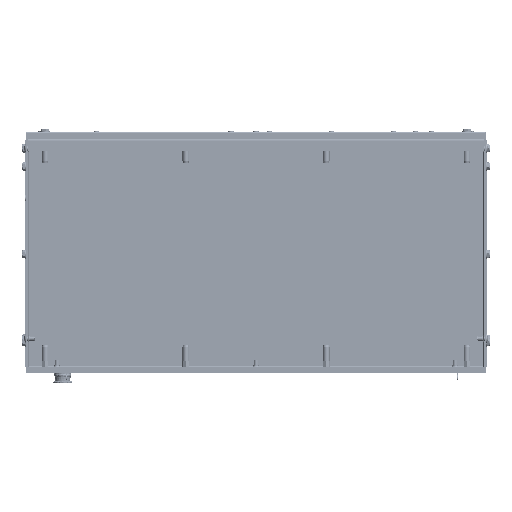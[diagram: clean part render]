
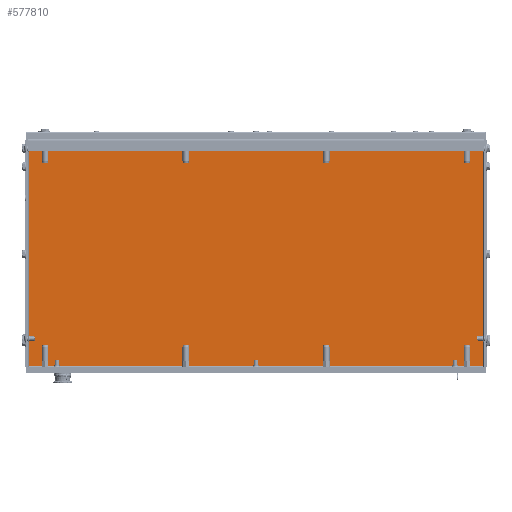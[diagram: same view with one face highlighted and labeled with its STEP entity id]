
A CAD part, front view. The second image highlights one B-rep face of the part: STEP entity #577810.
In plain terms, the highlighted planar face has unit normal (0, -1, 0).
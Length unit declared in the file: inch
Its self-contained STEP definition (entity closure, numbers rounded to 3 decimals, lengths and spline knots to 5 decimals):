
#67338 = CARTESIAN_POINT ( 'NONE',  ( -9.681, -0.036, 4.808 ) ) ;
#77628 = DIRECTION ( 'NONE',  ( -1., 0., 0. ) ) ;
#88732 = EDGE_CURVE ( 'NONE', #308049, #371981, #263986, .T. ) ;
#125919 = CARTESIAN_POINT ( 'NONE',  ( -9.68416, -0.036, 4.808 ) ) ;
#126270 = ORIENTED_EDGE ( 'NONE', *, *, #743251, .F. ) ;
#135247 = FACE_OUTER_BOUND ( 'NONE', #409373, .T. ) ;
#138504 = LINE ( 'NONE', #654123, #309550 ) ;
#168779 = VERTEX_POINT ( 'NONE', #590142 ) ;
#230616 = VECTOR ( 'NONE', #679275, 39.37008 ) ;
#233473 = PLANE ( 'NONE',  #532064 ) ;
#263986 = LINE ( 'NONE', #125919, #394789 ) ;
#291195 = LINE ( 'NONE', #803050, #230616 ) ;
#298133 = DIRECTION ( 'NONE',  ( 0., 1., 0. ) ) ;
#308049 = VERTEX_POINT ( 'NONE', #67338 ) ;
#309550 = VECTOR ( 'NONE', #77628, 39.37008 ) ;
#317500 = CARTESIAN_POINT ( 'NONE',  ( -9.681, -0.036, -4.808 ) ) ;
#371981 = VERTEX_POINT ( 'NONE', #659330 ) ;
#382275 = DIRECTION ( 'NONE',  ( 0., 0., 1. ) ) ;
#394789 = VECTOR ( 'NONE', #831912, 39.37008 ) ;
#409373 = EDGE_LOOP ( 'NONE', ( #126270, #792423, #631659, #825682 ) ) ;
#432231 = LINE ( 'NONE', #832334, #734205 ) ;
#444518 = EDGE_CURVE ( 'NONE', #371981, #168779, #291195, .T. ) ;
#532064 = AXIS2_PLACEMENT_3D ( 'NONE', #615908, #298133, #748184 ) ;
#577810 = ADVANCED_FACE ( 'NONE', ( #135247 ), #233473, .F. ) ;
#590142 = CARTESIAN_POINT ( 'NONE',  ( 9.681, -0.036, -4.808 ) ) ;
#615908 = CARTESIAN_POINT ( 'NONE',  ( -9.748, -0.036, -4.875 ) ) ;
#626137 = EDGE_CURVE ( 'NONE', #648619, #308049, #432231, .T. ) ;
#631659 = ORIENTED_EDGE ( 'NONE', *, *, #88732, .F. ) ;
#648619 = VERTEX_POINT ( 'NONE', #317500 ) ;
#654123 = CARTESIAN_POINT ( 'NONE',  ( 9.68416, -0.036, -4.808 ) ) ;
#659330 = CARTESIAN_POINT ( 'NONE',  ( 9.681, -0.036, 4.808 ) ) ;
#679275 = DIRECTION ( 'NONE',  ( 0., 0., -1. ) ) ;
#734205 = VECTOR ( 'NONE', #382275, 39.37008 ) ;
#743251 = EDGE_CURVE ( 'NONE', #168779, #648619, #138504, .T. ) ;
#748184 = DIRECTION ( 'NONE',  ( 0., 0., 1. ) ) ;
#792423 = ORIENTED_EDGE ( 'NONE', *, *, #444518, .F. ) ;
#803050 = CARTESIAN_POINT ( 'NONE',  ( 9.681, -0.036, 4.81116 ) ) ;
#825682 = ORIENTED_EDGE ( 'NONE', *, *, #626137, .F. ) ;
#831912 = DIRECTION ( 'NONE',  ( 1., 0., 0. ) ) ;
#832334 = CARTESIAN_POINT ( 'NONE',  ( -9.681, -0.036, -4.81116 ) ) ;
